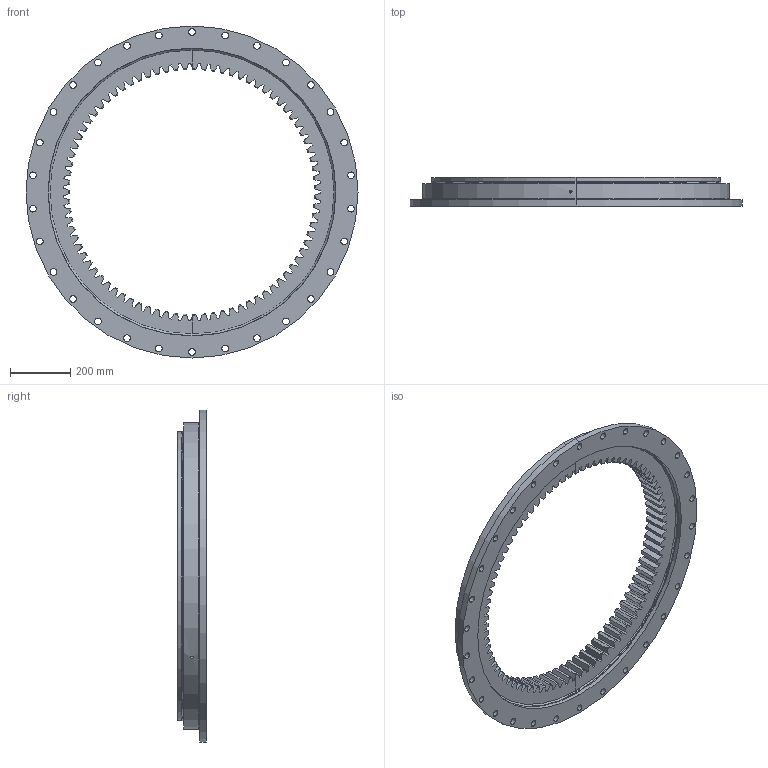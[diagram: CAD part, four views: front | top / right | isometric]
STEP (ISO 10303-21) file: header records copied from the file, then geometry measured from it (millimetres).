
FILE_DESCRIPTION (( 'STEP AP214' ), '1' );
FILE_NAME ('B1130-1-1100AC.STEP', '2022-11-24T06:45:28', ( '' ), ( '' ), 'SwSTEP 2.0', 'SolidWorks 2020', '' );
FILE_SCHEMA (( 'AUTOMOTIVE_DESIGN' ));
Length unit declared in the file: millimetre
Products named in the file (1): B1130-1-1100AC
Bounding box: 1100 x 95 x 1100 mm (x, y, z)
Volume: 22518603.2 mm3; surface area: 2269729.3 mm2
Topology: 4 solids, 4 shells, 806 faces, 2248 edges, 1426 vertices
Faces by surface type: cone 296, plane 269, cylinder 239, torus 2
Entity records: 26511 total; most frequent: CARTESIAN_POINT 6663, ORIENTED_EDGE 4376, DIRECTION 3835, EDGE_CURVE 2188, AXIS2_PLACEMENT_3D 1521, VERTEX_POINT 1426, EDGE_LOOP 916, ADVANCED_FACE 806
